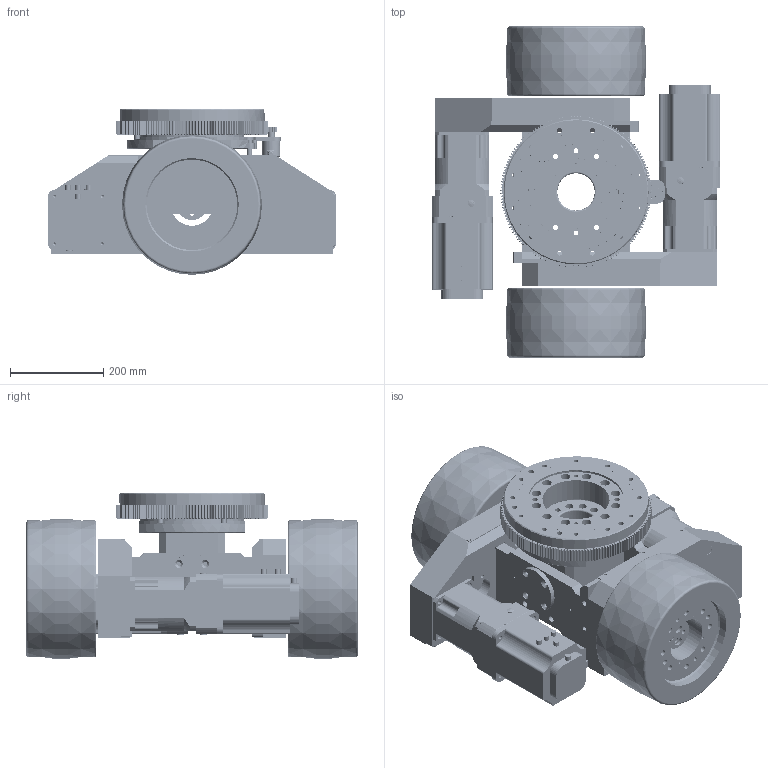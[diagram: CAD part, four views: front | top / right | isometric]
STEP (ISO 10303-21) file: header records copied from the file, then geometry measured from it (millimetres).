
FILE_DESCRIPTION (( 'STEP AP203' ), '1' );
FILE_NAME ('TYCD300-MS30030BG-Z-i3X20 16010 LK150 H355 D766 PB3.1 10T.STEP', '2026-06-16T07:09:41', ( '' ), ( '' ), 'SwSTEP 2.0', 'SolidWorks 2024', '' );
FILE_SCHEMA (( 'CONFIG_CONTROL_DESIGN' ));
Length unit declared in the file: millimetre
Products named in the file (1): TYCD300-MS30030BG-Z-i3X20 16010 LK150 H355 D766 PB3.1 10T
Bounding box: 617.67 x 710 x 355 mm (x, y, z)
Volume: 37055061.4 mm3; surface area: 4123198 mm2
Topology: 35 solids, 50 shells, 4103 faces, 10713 edges, 6983 vertices
Faces by surface type: cylinder 2510, plane 857, cone 542, torus 162, sphere 22, bspline 10
Full cylindrical faces by diameter (mm): 2.5 x1, 3.2 x3, 5.5 x3, 6 x1, 6.5 x2, 14.998 x1, 20 x1, 39 x1, 300 x2
Entity records: 173446 total; most frequent: CARTESIAN_POINT 85014, ORIENTED_EDGE 21246, DIRECTION 13350, EDGE_CURVE 10623, B_SPLINE_CURVE_WITH_KNOTS 7313, VERTEX_POINT 6967, AXIS2_PLACEMENT_3D 5950, EDGE_LOOP 4926
